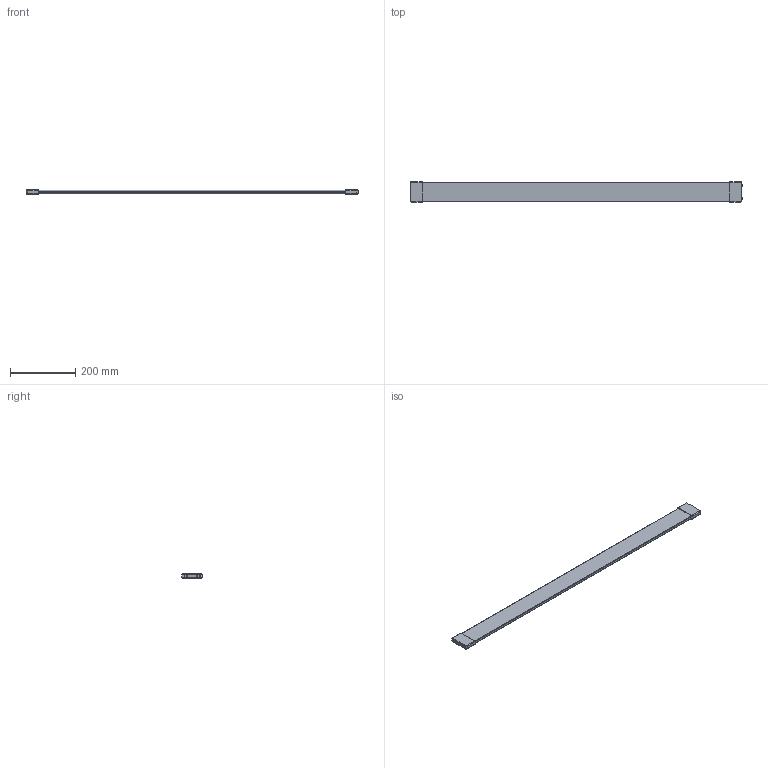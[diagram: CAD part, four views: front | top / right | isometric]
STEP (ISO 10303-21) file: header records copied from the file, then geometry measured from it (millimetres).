
FILE_DESCRIPTION (( 'STEP AP214' ), '1' );
FILE_NAME ('Schubkastenteiler_PROKAB_1100.step', '2009-11-04T15:16:57', ( 'Waldinger Reinhard' ), ( 'Grass GmbH' ), 'SwSTEP 2.0', 'SolidWorks 2009', '' );
FILE_SCHEMA (( 'AUTOMOTIVE_DESIGN' ));
Length unit declared in the file: millimetre
Products named in the file (1): Schubkastenteiler_PROKAB_1100
Bounding box: 1017.9 x 63.7 x 13 mm (x, y, z)
Volume: 610019.2 mm3; surface area: 140935.3 mm2
Topology: 1 solids, 1 shells, 92 faces, 208 edges, 124 vertices
Faces by surface type: cylinder 38, torus 28, plane 22, bspline 4
Entity records: 3210 total; most frequent: CARTESIAN_POINT 1069, DIRECTION 486, ORIENTED_EDGE 416, EDGE_CURVE 208, AXIS2_PLACEMENT_3D 205, VERTEX_POINT 124, CIRCLE 116, EDGE_LOOP 98
